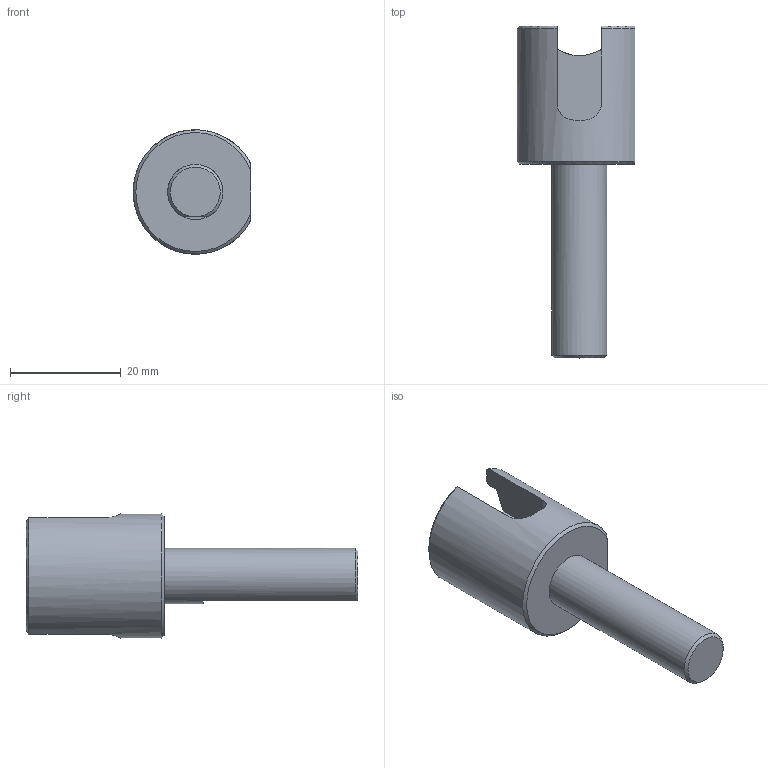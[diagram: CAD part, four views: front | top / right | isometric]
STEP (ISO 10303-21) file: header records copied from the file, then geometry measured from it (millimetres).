
FILE_DESCRIPTION(/* description */ (''),/* implementation_level */ '2;1');
FILE_NAME(/* name */ 'SYSTEM_SUPPORT_32.stp',/* time_stamp */ '2017-12-06T14:32:41+01:00',/* author */ (''),/* organization */ (''),/* preprocessor_version */ 'ST-DEVELOPER v16',/* originating_system */ 'SIEMENS PLM Software NX 10.0',/* authorisation */ '');
FILE_SCHEMA (('AP203_CONFIGURATION_CONTROLLED_3D_DESIGN_OF_MECHANICAL_PARTS_AND_ASSEMBLIES_MIM_LF { 1 0 10303 403 2 1 2}'));
Length unit declared in the file: millimetre
Products named in the file (1): turc1DB80072j4ly
Bounding box: 21.3 x 60 x 22.49 mm (x, y, z)
Volume: 9662.2 mm3; surface area: 4190.8 mm2
Topology: 1 solids, 1 shells, 37 faces, 106 edges, 71 vertices
Faces by surface type: plane 15, cone 12, cylinder 10
Full cylindrical faces by diameter (mm): 2.5 x2, 10 x1
Entity records: 1294 total; most frequent: CARTESIAN_POINT 328, DIRECTION 177, ORIENTED_EDGE 174, EDGE_CURVE 87, AXIS2_PLACEMENT_3D 72, VERTEX_POINT 63, EDGE_LOOP 45, ADVANCED_FACE 37
